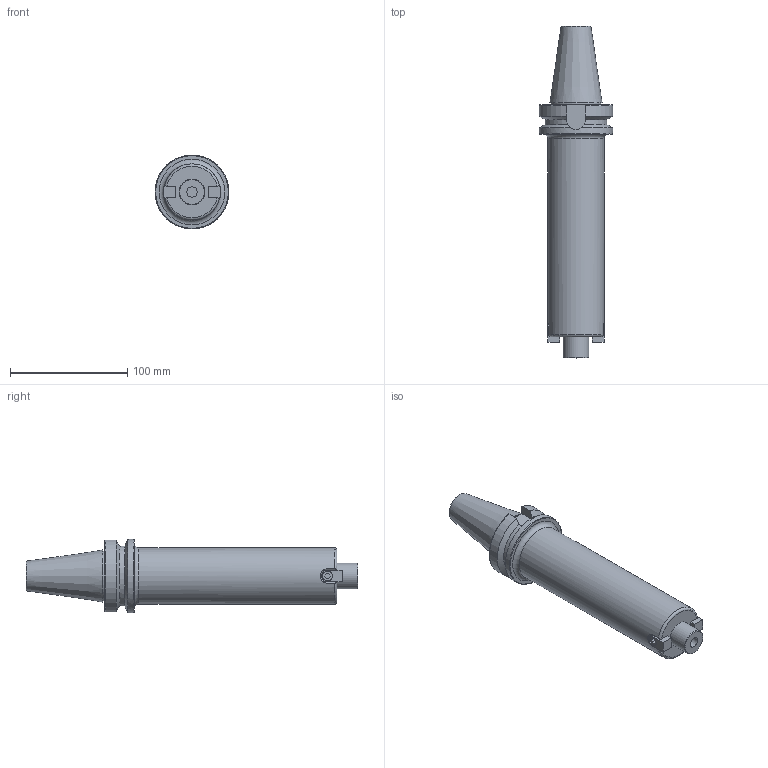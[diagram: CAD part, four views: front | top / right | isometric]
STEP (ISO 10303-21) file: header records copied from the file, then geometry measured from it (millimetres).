
FILE_DESCRIPTION(/* description */ (''),/* implementation_level */ '2;1');
FILE_NAME(/* name */ 'BT40-FMB22-200.stp',/* time_stamp */ '2025-09-24T15:13:37+03:00',/* author */ ('User'),/* organization */ (''),/* preprocessor_version */ 'ST-DEVELOPER v19.2',/* originating_system */ 'Autodesk Inventor 2024',/* authorisation */ '');
FILE_SCHEMA (('AUTOMOTIVE_DESIGN { 1 0 10303 214 3 1 1 }'));
Length unit declared in the file: millimetre
Products named in the file (1): BT40-FMB60-75
Bounding box: 63 x 283.4 x 63 mm (x, y, z)
Volume: 443482.1 mm3; surface area: 51072.5 mm2
Topology: 1 solids, 1 shells, 87 faces, 216 edges, 142 vertices
Faces by surface type: plane 51, cylinder 19, torus 9, cone 6, bspline 2
Full cylindrical faces by diameter (mm): 8.5 x2, 9 x1, 14.2 x1, 17 x1, 22 x1, 43 x1, 48 x1, 63 x1
Entity records: 2963 total; most frequent: CARTESIAN_POINT 793, ORIENTED_EDGE 432, DIRECTION 415, EDGE_CURVE 216, AXIS2_PLACEMENT_3D 146, VERTEX_POINT 142, LINE 123, VECTOR 123
